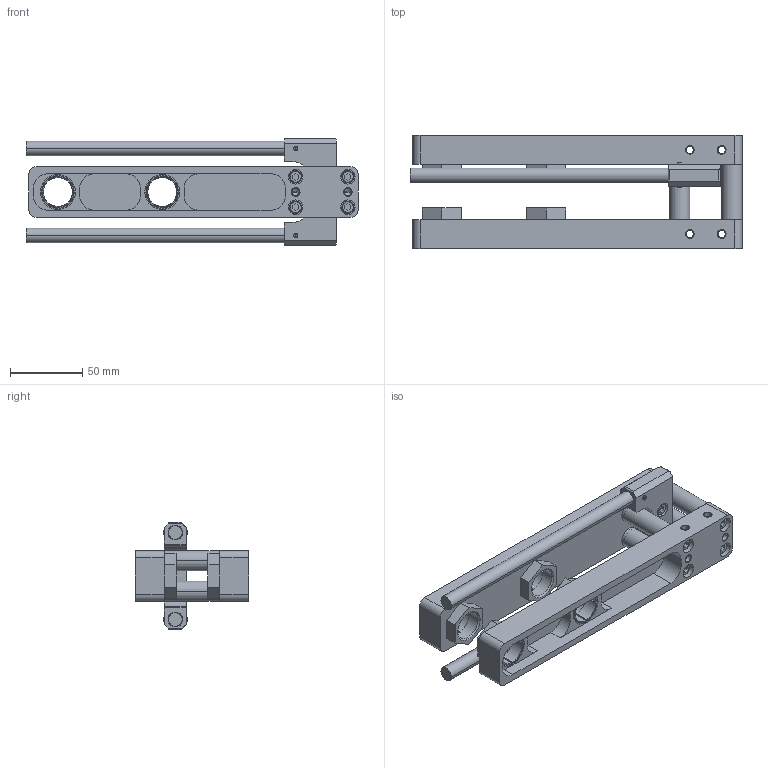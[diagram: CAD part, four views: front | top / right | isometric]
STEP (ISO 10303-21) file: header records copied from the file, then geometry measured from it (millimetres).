
FILE_DESCRIPTION((''),'2;1');
FILE_NAME('0000425399_ASM','2021-12-06T10:30:39',('pdmservice'),(''),'CREO PARAMETRIC BY PTC INC, 2018420','CREO PARAMETRIC BY PTC INC, 2018420','');
FILE_SCHEMA(('AUTOMOTIVE_DESIGN { 1 0 10303 214 1 1 1 1 }'));
Length unit declared in the file: millimetre
Products named in the file (12): 0000420901_PRT; 0000301301_PRT; 0000421063_PRT; 0000411897_PRT; 0000425389_PRT; 0000434688_PRT; 0000420915_PRT; 0000049906_PRT; 0000039435_PRT; 0000039031_PRT; 0000026015_PRT; 0000425399_ASM
Assembly tree (37 placements, depth 2):
  0000425399_ASM
    0000420901_PRT
    0000301301_PRT  x10
    0000421063_PRT  x4
    0000411897_PRT
    0000425389_PRT
    0000434688_PRT  x2
    0000420915_PRT  x4
    0000049906_PRT  x4
    0000039435_PRT  x4
    0000039031_PRT  x2
    0000026015_PRT  x4
Bounding box: 229 x 78 x 74 mm (x, y, z)
Volume: 261795.6 mm3; surface area: 150597.6 mm2
Topology: 37 solids, 79 shells, 880 faces, 2076 edges, 1352 vertices
Faces by surface type: cylinder 384, plane 380, cone 88, torus 28
Entity records: 25857 total; most frequent: CARTESIAN_POINT 3163, DIRECTION 2728, ORIENTED_EDGE 2132, PROPERTY_DEFINITION 1316, REPRESENTATION 1298, PROPERTY_DEFINITION_REPRESENTATION 1298, EDGE_CURVE 1130, DESCRIPTIVE_REPRESENTATION_ITEM 1116
